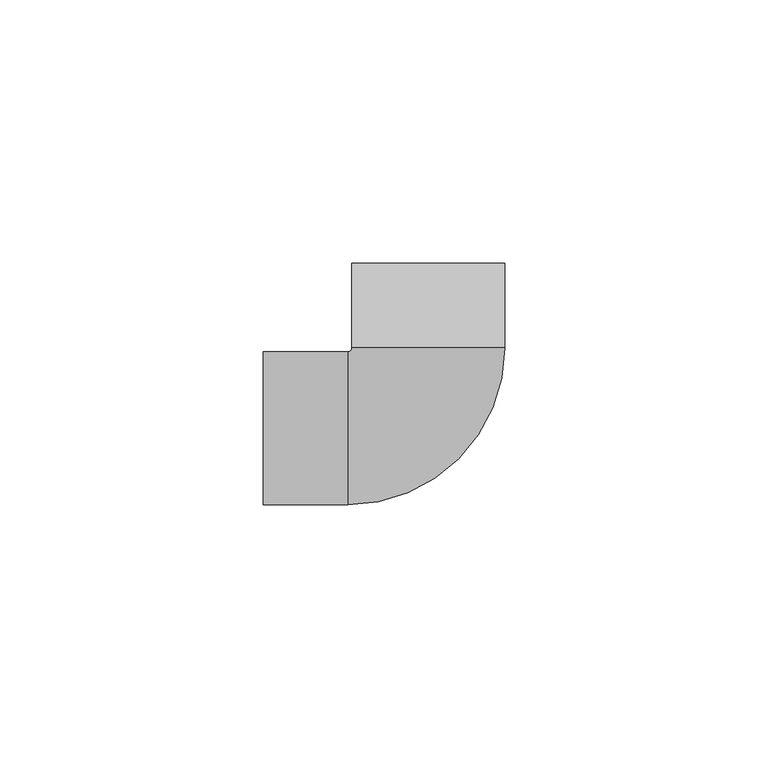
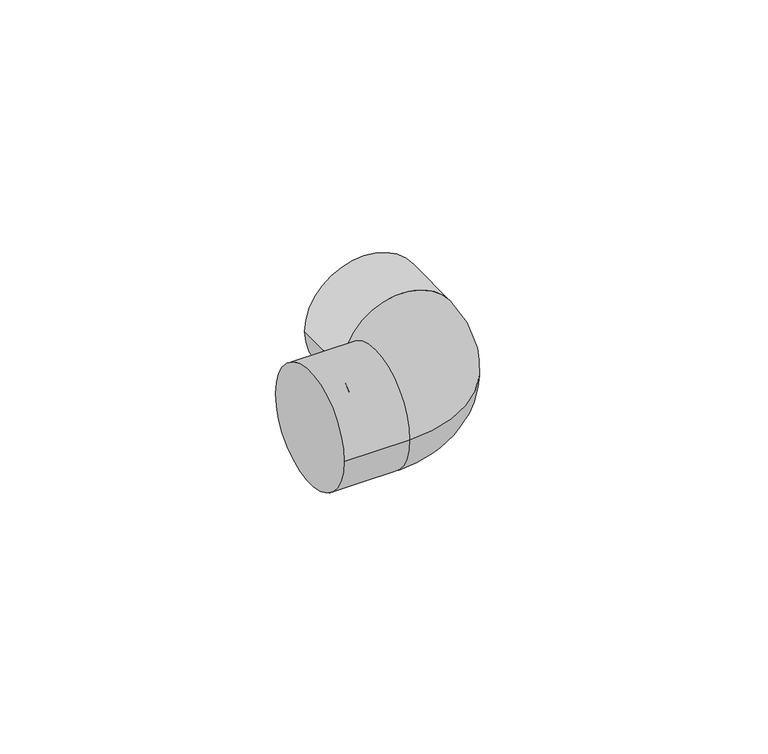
"""IFC4 building model written with IfcOpenShell, lengths in millimetres: pipe fitting geometry, NIRON RED termofusion codo : Estándar."""

from ifc_helpers import new_model, si_unit, point, frame, origin, place, context, project, spatial, circle_curve, ellipse_curve, trimmed, source, transform, mapped, element, save
from ifc_brep_helpers import plane_surface, cylinder_surface, revolved_surface, advanced_brep


def pipe_fitting_2e8f6d3b(model_context):
    return source(origin(), model_context, "Body", "AdvancedBrep", [
        advanced_brep(
        [(-31.29375, -14.5, 0.0), (-31.29375, 14.5, 0.0), (-15.29375, -14.5, 0.0), (-15.29375, 14.5, 0.0), (-14.5, 15.29375, 0.0), (14.5, 15.29375, 0.0), (0.0, 15.29375, 14.5), (0.0, 15.29375, -14.5), (14.5, 31.29375, 0.0), (-14.5, 31.29375, 0.0)],
        [
            (0, 1, circle_curve(frame((-31.29375, 0.0, 0.0), z_axis=(-1.0, 0.0, 0.0), x_axis=(0.0, 1.0, 0.0)), 14.5)),
            (1, 0, circle_curve(frame((-31.29375, 0.0, 0.0), z_axis=(-1.0, 0.0, 0.0), x_axis=(0.0, 1.0, 0.0)), 14.5)),
            (0, 2),
            (2, 3, circle_curve(frame((-15.29375, 0.0, 0.0), z_axis=(-1.0, 0.0, 0.0), x_axis=(0.0, 1.0, 0.0)), 14.5)),
            (3, 1),
            (3, 2, circle_curve(frame((-15.29375, 0.0, 0.0), z_axis=(-1.0, 0.0, 0.0), x_axis=(0.0, 1.0, 0.0)), 14.5)),
            (4, 3, circle_curve(frame((-15.29375, 15.29375, 0.0), z_axis=(0.0, 0.0, -1.0), x_axis=(0.0, -1.0, 0.0)), 0.79375)),
            (2, 5, circle_curve(frame((-15.29375, 15.29375, 0.0), z_axis=(0.0, 0.0, 1.0), x_axis=(0.0, -1.0, 0.0)), 29.79375)),
            (5, 6, circle_curve(frame((0.0, 15.29375, 0.0), z_axis=(0.0, -1.0, 0.0), x_axis=(-1.0, 0.0, 0.0)), 14.5)),
            (6, 4, circle_curve(frame((0.0, 15.29375, 0.0), z_axis=(0.0, -1.0, 0.0), x_axis=(-1.0, 0.0, 0.0)), 14.5)),
            (4, 7, circle_curve(frame((0.0, 15.29375, 0.0), z_axis=(0.0, -1.0, 0.0), x_axis=(-1.0, 0.0, 0.0)), 14.5)),
            (7, 5, circle_curve(frame((0.0, 15.29375, 0.0), z_axis=(0.0, -1.0, 0.0), x_axis=(-1.0, 0.0, 0.0)), 14.5)),
            (8, 9, circle_curve(frame((0.0, 31.29375, 0.0), z_axis=(0.0, 1.0, 0.0), x_axis=(-1.0, 0.0, 0.0)), 14.5)),
            (9, 8, circle_curve(frame((0.0, 31.29375, 0.0), z_axis=(0.0, 1.0, 0.0), x_axis=(-1.0, 0.0, 0.0)), 14.5)),
            (9, 4),
            (5, 8),
        ],
        [
            plane_surface(frame((-31.29375, 0.0, 0.0), z_axis=(-1.0, 0.0, 0.0), x_axis=(0.0, 0.0, 1.0))),
            cylinder_surface(frame((-31.29375, 0.0, 0.0), z_axis=(-1.0, 0.0, 0.0), x_axis=(0.0, 1.0, 0.0)), 14.5),
            revolved_surface(trimmed(ellipse_curve(frame((-15.29375, 0.0, 0.0), z_axis=(-1.0, 0.0, 0.0), x_axis=(0.0, 1.0, 0.0)), 14.5, 14.5), [point((-15.29375, -14.5, 0.0))], [point((-15.29375, 14.5, 0.0))], True, "CARTESIAN"), (-15.29375, 15.29375, 0.0), (0.0, 0.0, 1.0)),
            revolved_surface(trimmed(ellipse_curve(frame((-15.29375, 0.0, 0.0), z_axis=(-1.0, 0.0, 0.0), x_axis=(0.0, 1.0, 0.0)), 14.5, 14.5), [point((-15.29375, 14.5, 0.0))], [point((-15.29375, -14.5, 0.0))], True, "CARTESIAN"), (-15.29375, 15.29375, 0.0), (0.0, 0.0, 1.0)),
            plane_surface(frame((0.0, 31.29375, 0.0), z_axis=(0.0, 1.0, 0.0), x_axis=(0.0, 0.0, 1.0))),
            cylinder_surface(frame((0.0, 15.29375, 0.0), z_axis=(0.0, -1.0, 0.0), x_axis=(-1.0, 0.0, 0.0)), 14.5),
        ],
        [
            (0, [[1, 2]]),
            (1, [[-1, 3, 4, 5]]),
            (1, [[-2, -5, 6, -3]]),
            (2, [[7, -4, 8, 9, 10]]),
            (3, [[-7, 11, 12, -8, -6]]),
            (4, [[13, 14]]),
            (5, [[-14, 15, -10, -9, 16]]),
            (5, [[-13, -16, -12, -11, -15]]),
        ],
    ),
    ])


if __name__ == "__main__":
    model = new_model("IFC4")
    model_context = context("Model", 3, world=origin())
    ifc_project = project(units=[si_unit("LENGTHUNIT", "METRE", prefix="MILLI")], contexts=[model_context])
    site = spatial("IfcSite", under=ifc_project)
    building = spatial("IfcBuilding", under=site)
    placement = place(None, origin())
    pipe_fitting_shape = pipe_fitting_2e8f6d3b(model_context)
    element("IfcPipeFitting", 1, ObjectType="NIRON RED termofusion codo : Estándar", at=placement, inside=building, context=model_context, shape_type="MappedRepresentation", body=[
        mapped(pipe_fitting_shape, transform((0.0, 0.0, 0.0), x_axis=(1.0, 0.0, 0.0), y_axis=(0.0, 1.0, 0.0), z_axis=(0.0, 0.0, 1.0))),
    ])
    save(model, "model.ifc")
